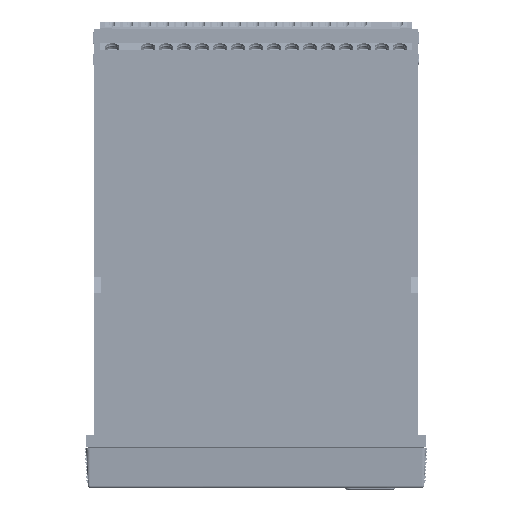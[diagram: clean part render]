
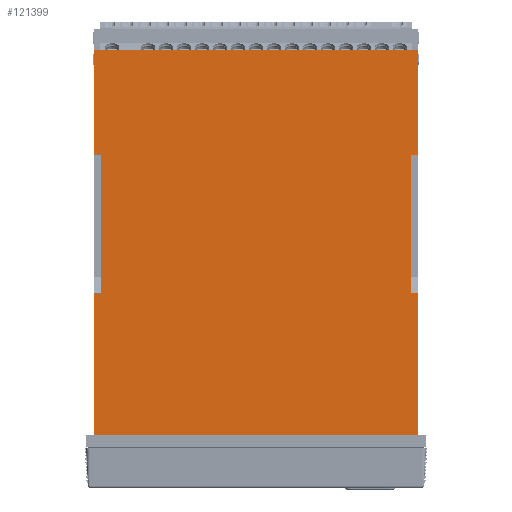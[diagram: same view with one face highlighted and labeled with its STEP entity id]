
A CAD part, left-side view. The second image highlights one B-rep face of the part: STEP entity #121399.
In plain terms, the highlighted planar face has unit normal (-1, 0, 0).
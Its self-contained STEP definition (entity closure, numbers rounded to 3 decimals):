
#452 = VERTEX_POINT ( 'NONE', #47139 ) ;
#2042 = DIRECTION ( 'NONE',  ( 0., -1., 0.017 ) ) ;
#2168 = DIRECTION ( 'NONE',  ( 0., 0., 1. ) ) ;
#2278 = CARTESIAN_POINT ( 'NONE',  ( -45.75, 44.084, -43.026 ) ) ;
#3457 = VECTOR ( 'NONE', #53634, 1000. ) ;
#5332 = VERTEX_POINT ( 'NONE', #89928 ) ;
#5991 = EDGE_CURVE ( 'NONE', #84766, #452, #126704, .T. ) ;
#9095 = VECTOR ( 'NONE', #106063, 1000. ) ;
#12663 = CARTESIAN_POINT ( 'NONE',  ( -45.75, -45.75, -117.5 ) ) ;
#12778 = PLANE ( 'NONE',  #57526 ) ;
#14095 = VECTOR ( 'NONE', #22037, 1000. ) ;
#14298 = VECTOR ( 'NONE', #96318, 1000. ) ;
#19884 = ORIENTED_EDGE ( 'NONE', *, *, #100783, .F. ) ;
#21884 = CARTESIAN_POINT ( 'NONE',  ( -45.75, 45.75, -42.997 ) ) ;
#22037 = DIRECTION ( 'NONE',  ( 0., -1., -0.009 ) ) ;
#22046 = CARTESIAN_POINT ( 'NONE',  ( -45.75, -44.45, -43.019 ) ) ;
#22397 = LINE ( 'NONE', #75707, #119606 ) ;
#23480 = CARTESIAN_POINT ( 'NONE',  ( -45.75, -45.75, -117.5 ) ) ;
#23767 = ORIENTED_EDGE ( 'NONE', *, *, #132047, .T. ) ;
#27402 = ORIENTED_EDGE ( 'NONE', *, *, #57313, .T. ) ;
#28430 = CARTESIAN_POINT ( 'NONE',  ( -45.75, 45.75, -111.5 ) ) ;
#28639 = VECTOR ( 'NONE', #85360, 1000. ) ;
#31082 = LINE ( 'NONE', #43697, #3457 ) ;
#35871 = CARTESIAN_POINT ( 'NONE',  ( -45.75, -47.8, -111.5 ) ) ;
#36303 = EDGE_LOOP ( 'NONE', ( #38524, #27402, #103632, #131353, #111903, #49764, #19884, #78346, #23767, #126188, #55831, #42906 ) ) ;
#36472 = VECTOR ( 'NONE', #2168, 1000. ) ;
#36705 = LINE ( 'NONE', #2278, #9095 ) ;
#38524 = ORIENTED_EDGE ( 'NONE', *, *, #78711, .F. ) ;
#42815 = EDGE_CURVE ( 'NONE', #92768, #94109, #57729, .T. ) ;
#42906 = ORIENTED_EDGE ( 'NONE', *, *, #93011, .F. ) ;
#42990 = CARTESIAN_POINT ( 'NONE',  ( -45.75, 45.75, -117.5 ) ) ;
#43697 = CARTESIAN_POINT ( 'NONE',  ( -45.75, -45.433, -81.204 ) ) ;
#44268 = CARTESIAN_POINT ( 'NONE',  ( -45.75, -45.75, -82. ) ) ;
#45589 = EDGE_CURVE ( 'NONE', #452, #110724, #93705, .T. ) ;
#46553 = CARTESIAN_POINT ( 'NONE',  ( -45.75, -43.75, -43.032 ) ) ;
#46673 = VECTOR ( 'NONE', #94618, 1000. ) ;
#47139 = CARTESIAN_POINT ( 'NONE',  ( -45.75, 45.75, -1.5 ) ) ;
#49764 = ORIENTED_EDGE ( 'NONE', *, *, #120765, .F. ) ;
#50461 = CARTESIAN_POINT ( 'NONE',  ( -45.75, -45.75, -111.5 ) ) ;
#51267 = VECTOR ( 'NONE', #67495, 1000. ) ;
#51628 = CARTESIAN_POINT ( 'NONE',  ( -45.75, -43.75, -82. ) ) ;
#51944 = CARTESIAN_POINT ( 'NONE',  ( -45.75, 43.75, -81.983 ) ) ;
#53634 = DIRECTION ( 'NONE',  ( 0., 1., -0.009 ) ) ;
#54222 = LINE ( 'NONE', #12663, #36472 ) ;
#54427 = DIRECTION ( 'NONE',  ( 0., 0., 1. ) ) ;
#54543 = VERTEX_POINT ( 'NONE', #103103 ) ;
#54595 = CARTESIAN_POINT ( 'NONE',  ( -45.75, -45.75, -1.5 ) ) ;
#55715 = LINE ( 'NONE', #51628, #117315 ) ;
#55831 = ORIENTED_EDGE ( 'NONE', *, *, #5991, .F. ) ;
#56701 = CARTESIAN_POINT ( 'NONE',  ( -45.75, -43.75, -81.983 ) ) ;
#57313 = EDGE_CURVE ( 'NONE', #104457, #76514, #31082, .T. ) ;
#57526 = AXIS2_PLACEMENT_3D ( 'NONE', #63997, #126456, #127846 ) ;
#57729 = LINE ( 'NONE', #35871, #51267 ) ;
#63997 = CARTESIAN_POINT ( 'NONE',  ( -45.75, -45.75, -117.5 ) ) ;
#67495 = DIRECTION ( 'NONE',  ( 0., 1., 0. ) ) ;
#69037 = CARTESIAN_POINT ( 'NONE',  ( -45.75, -45.75, -1.5 ) ) ;
#73323 = DIRECTION ( 'NONE',  ( 0., 0., -1. ) ) ;
#74867 = VECTOR ( 'NONE', #103686, 1000. ) ;
#75553 = EDGE_CURVE ( 'NONE', #92768, #88101, #54222, .T. ) ;
#75707 = CARTESIAN_POINT ( 'NONE',  ( -45.75, 43.75, -117.5 ) ) ;
#76514 = VERTEX_POINT ( 'NONE', #125999 ) ;
#78346 = ORIENTED_EDGE ( 'NONE', *, *, #111591, .T. ) ;
#78711 = EDGE_CURVE ( 'NONE', #104457, #54543, #22397, .T. ) ;
#78998 = LINE ( 'NONE', #44268, #14095 ) ;
#84766 = VERTEX_POINT ( 'NONE', #21884 ) ;
#85360 = DIRECTION ( 'NONE',  ( 0., 0., 1. ) ) ;
#88101 = VERTEX_POINT ( 'NONE', #111856 ) ;
#89928 = CARTESIAN_POINT ( 'NONE',  ( -45.75, -45.75, -42.997 ) ) ;
#91065 = VECTOR ( 'NONE', #2042, 1000. ) ;
#91158 = VERTEX_POINT ( 'NONE', #46553 ) ;
#92768 = VERTEX_POINT ( 'NONE', #50461 ) ;
#93011 = EDGE_CURVE ( 'NONE', #54543, #84766, #36705, .T. ) ;
#93705 = LINE ( 'NONE', #54595, #14298 ) ;
#94109 = VERTEX_POINT ( 'NONE', #28430 ) ;
#94618 = DIRECTION ( 'NONE',  ( 0., 0., 1. ) ) ;
#96318 = DIRECTION ( 'NONE',  ( 0., -1., 0. ) ) ;
#100783 = EDGE_CURVE ( 'NONE', #91158, #102943, #55715, .T. ) ;
#102943 = VERTEX_POINT ( 'NONE', #56701 ) ;
#103103 = CARTESIAN_POINT ( 'NONE',  ( -45.75, 43.75, -43.032 ) ) ;
#103226 = LINE ( 'NONE', #126964, #28639 ) ;
#103632 = ORIENTED_EDGE ( 'NONE', *, *, #127306, .F. ) ;
#103686 = DIRECTION ( 'NONE',  ( 0., 0., 1. ) ) ;
#104457 = VERTEX_POINT ( 'NONE', #51944 ) ;
#105540 = LINE ( 'NONE', #22046, #91065 ) ;
#106063 = DIRECTION ( 'NONE',  ( 0., 1., 0.017 ) ) ;
#110724 = VERTEX_POINT ( 'NONE', #69037 ) ;
#111591 = EDGE_CURVE ( 'NONE', #91158, #5332, #105540, .T. ) ;
#111856 = CARTESIAN_POINT ( 'NONE',  ( -45.75, -45.75, -82. ) ) ;
#111903 = ORIENTED_EDGE ( 'NONE', *, *, #75553, .T. ) ;
#117315 = VECTOR ( 'NONE', #73323, 1000. ) ;
#119606 = VECTOR ( 'NONE', #54427, 1000. ) ;
#120765 = EDGE_CURVE ( 'NONE', #102943, #88101, #78998, .T. ) ;
#121399 = ADVANCED_FACE ( 'NONE', ( #132996 ), #12778, .F. ) ;
#125999 = CARTESIAN_POINT ( 'NONE',  ( -45.75, 45.75, -82. ) ) ;
#126188 = ORIENTED_EDGE ( 'NONE', *, *, #45589, .F. ) ;
#126456 = DIRECTION ( 'NONE',  ( 1., 0., 0. ) ) ;
#126704 = LINE ( 'NONE', #42990, #74867 ) ;
#126964 = CARTESIAN_POINT ( 'NONE',  ( -45.75, 45.75, -117.5 ) ) ;
#127306 = EDGE_CURVE ( 'NONE', #94109, #76514, #103226, .T. ) ;
#127846 = DIRECTION ( 'NONE',  ( 0., 1., 0. ) ) ;
#129382 = LINE ( 'NONE', #23480, #46673 ) ;
#131353 = ORIENTED_EDGE ( 'NONE', *, *, #42815, .F. ) ;
#132047 = EDGE_CURVE ( 'NONE', #5332, #110724, #129382, .T. ) ;
#132996 = FACE_OUTER_BOUND ( 'NONE', #36303, .T. ) ;
